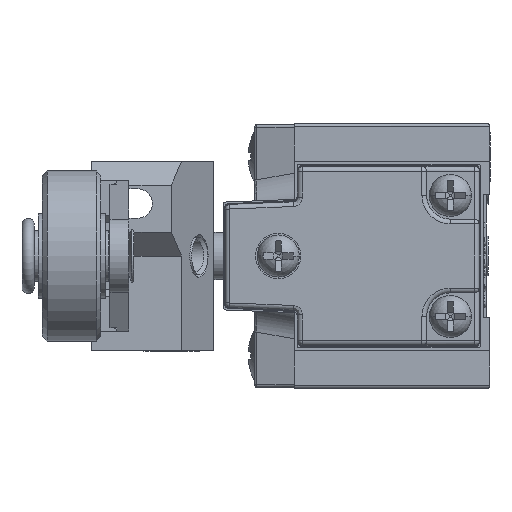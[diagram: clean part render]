
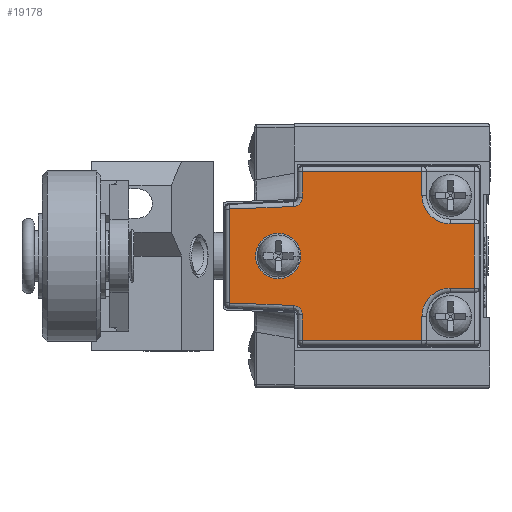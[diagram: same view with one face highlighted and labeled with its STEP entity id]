
A CAD part, left-side view. The second image highlights one B-rep face of the part: STEP entity #19178.
In plain terms, the highlighted planar face has unit normal (-1, 0, 0).
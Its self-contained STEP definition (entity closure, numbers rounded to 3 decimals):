
#4230=DIRECTION('',(0.,0.,1.));
#4231=VECTOR('',#4230,6.8);
#4232=CARTESIAN_POINT('',(-52.85,0.954,-3.4));
#4233=LINE('',#4232,#4231);
#4313=DIRECTION('',(0.,-1.,0.));
#4314=VECTOR('',#4313,12.646);
#4315=CARTESIAN_POINT('',(-52.85,19.146,-8.946));
#4316=LINE('',#4315,#4314);
#4336=DIRECTION('',(0.,0.,-1.));
#4337=VECTOR('',#4336,2.717);
#4338=CARTESIAN_POINT('',(-52.85,19.146,
-6.229));
#4339=LINE('',#4338,#4337);
#4349=CARTESIAN_POINT('',(-52.85,20.107,
-5.23));
#4350=CARTESIAN_POINT('',(-52.85,20.001,
-5.234));
#4351=CARTESIAN_POINT('',(-52.85,19.803,
-5.273));
#4352=CARTESIAN_POINT('',(-52.85,19.529,
-5.422));
#4353=CARTESIAN_POINT('',(-52.85,19.315,
-5.644));
#4354=CARTESIAN_POINT('',(-52.85,19.177,
-5.923));
#4355=CARTESIAN_POINT('',(-52.85,19.147,
-6.123));
#4356=CARTESIAN_POINT('',(-52.85,19.146,
-6.229));
#4468=DIRECTION('',(0.,0.,-1.));
#4469=VECTOR('',#4468,9.934);
#4470=CARTESIAN_POINT('',(-52.85,26.84,4.967));
#4471=LINE('',#4470,#4469);
#4491=CARTESIAN_POINT('',(-52.85,19.146,6.229));
#4492=CARTESIAN_POINT('',(-52.85,19.147,6.123));
#4493=CARTESIAN_POINT('',(-52.85,19.177,5.923));
#4494=CARTESIAN_POINT('',(-52.85,19.315,5.644));
#4495=CARTESIAN_POINT('',(-52.85,19.529,5.422));
#4496=CARTESIAN_POINT('',(-52.85,19.803,5.273));
#4497=CARTESIAN_POINT('',(-52.85,20.001,5.234));
#4498=CARTESIAN_POINT('',(-52.85,20.107,5.23));
#4505=CARTESIAN_POINT('',(-52.85,3.5,6.4));
#4506=DIRECTION('',(-1.,0.,0.));
#4507=DIRECTION('',(0.,1.,0.));
#4508=AXIS2_PLACEMENT_3D('',#4505,#4506,#4507);
#4510=CARTESIAN_POINT('',(-52.85,3.5,-6.4));
#4511=DIRECTION('',(-1.,0.,0.));
#4512=DIRECTION('',(0.,0.,1.));
#4513=AXIS2_PLACEMENT_3D('',#4510,#4511,#4512);
#4515=DIRECTION('',(0.,0.999,0.039));
#4516=VECTOR('',#4515,6.738);
#4517=CARTESIAN_POINT('',(-52.85,20.107,
-5.23));
#4518=LINE('',#4517,#4516);
#4519=DIRECTION('',(0.,-0.999,0.039));
#4520=VECTOR('',#4519,6.738);
#4521=CARTESIAN_POINT('',(-52.85,26.84,4.967));
#4522=LINE('',#4521,#4520);
#4523=CARTESIAN_POINT('',(-52.85,21.7,0.));
#4524=DIRECTION('',(-1.,0.,0.));
#4525=DIRECTION('',(0.,0.,-1.));
#4526=AXIS2_PLACEMENT_3D('',#4523,#4524,#4525);
#4528=CARTESIAN_POINT('',(-52.85,21.7,0.));
#4529=DIRECTION('',(-1.,0.,0.));
#4530=DIRECTION('',(0.,0.,1.));
#4531=AXIS2_PLACEMENT_3D('',#4528,#4529,#4530);
#4533=DIRECTION('',(0.,0.,1.));
#4534=VECTOR('',#4533,2.546);
#4535=CARTESIAN_POINT('',(-52.85,6.5,6.4));
#4536=LINE('',#4535,#4534);
#4564=DIRECTION('',(0.,1.,0.));
#4565=VECTOR('',#4564,12.646);
#4566=CARTESIAN_POINT('',(-52.85,6.5,8.946));
#4567=LINE('',#4566,#4565);
#4587=DIRECTION('',(0.,0.,-1.));
#4588=VECTOR('',#4587,2.717);
#4589=CARTESIAN_POINT('',(-52.85,19.146,8.946));
#4590=LINE('',#4589,#4588);
#4626=DIRECTION('',(0.,1.,0.));
#4627=VECTOR('',#4626,2.546);
#4628=CARTESIAN_POINT('',(-52.85,0.954,3.4));
#4629=LINE('',#4628,#4627);
#5018=DIRECTION('',(0.,-1.,0.));
#5019=VECTOR('',#5018,2.546);
#5020=CARTESIAN_POINT('',(-52.85,3.5,-3.4));
#5021=LINE('',#5020,#5019);
#5078=DIRECTION('',(0.,0.,1.));
#5079=VECTOR('',#5078,2.546);
#5080=CARTESIAN_POINT('',(-52.85,6.5,-8.946));
#5081=LINE('',#5080,#5079);
#10600=CARTESIAN_POINT('',(-52.85,21.7,2.4));
#10601=VERTEX_POINT('',#10600);
#10602=CARTESIAN_POINT('',(-52.85,6.5,6.4));
#10603=CARTESIAN_POINT('',(-52.85,6.5,8.946));
#10604=VERTEX_POINT('',#10602);
#10605=VERTEX_POINT('',#10603);
#10606=CARTESIAN_POINT('',(-52.85,3.5,3.4));
#10607=VERTEX_POINT('',#10606);
#10608=CARTESIAN_POINT('',(-52.85,0.954,3.4));
#10609=VERTEX_POINT('',#10608);
#10610=CARTESIAN_POINT('',(-52.85,0.954,-3.4));
#10611=VERTEX_POINT('',#10610);
#10612=CARTESIAN_POINT('',(-52.85,3.5,-3.4));
#10613=VERTEX_POINT('',#10612);
#10614=CARTESIAN_POINT('',(-52.85,6.5,-6.4));
#10615=VERTEX_POINT('',#10614);
#10616=CARTESIAN_POINT('',(-52.85,6.5,-8.946));
#10617=VERTEX_POINT('',#10616);
#10618=CARTESIAN_POINT('',(-52.85,19.146,-8.946));
#10619=VERTEX_POINT('',#10618);
#10620=CARTESIAN_POINT('',(-52.85,19.146,
-6.229));
#10621=VERTEX_POINT('',#10620);
#10622=VERTEX_POINT('',#4349);
#10623=CARTESIAN_POINT('',(-52.85,26.84,-4.967));
#10624=VERTEX_POINT('',#10623);
#10625=CARTESIAN_POINT('',(-52.85,26.84,4.967));
#10626=VERTEX_POINT('',#10625);
#10627=CARTESIAN_POINT('',(-52.85,20.107,
5.23));
#10628=VERTEX_POINT('',#10627);
#10629=VERTEX_POINT('',#4491);
#10630=CARTESIAN_POINT('',(-52.85,19.146,8.946));
#10631=VERTEX_POINT('',#10630);
#10632=CARTESIAN_POINT('',(-52.85,21.7,-2.4));
#10633=VERTEX_POINT('',#10632);
#19140=CARTESIAN_POINT('',(-52.85,13.897,0.));
#19141=DIRECTION('',(1.,0.,0.));
#19142=DIRECTION('',(0.,0.,1.));
#19143=AXIS2_PLACEMENT_3D('',#19140,#19141,#19142);
#19144=PLANE('',#19143);
#19146=ORIENTED_EDGE('',*,*,#19145,.F.);
#19148=ORIENTED_EDGE('',*,*,#19147,.T.);
#19150=ORIENTED_EDGE('',*,*,#19149,.F.);
#19151=ORIENTED_EDGE('',*,*,#18539,.F.);
#19153=ORIENTED_EDGE('',*,*,#19152,.F.);
#19155=ORIENTED_EDGE('',*,*,#19154,.T.);
#19157=ORIENTED_EDGE('',*,*,#19156,.F.);
#19158=ORIENTED_EDGE('',*,*,#18701,.F.);
#19159=ORIENTED_EDGE('',*,*,#18741,.F.);
#19160=ORIENTED_EDGE('',*,*,#18802,.F.);
#19162=ORIENTED_EDGE('',*,*,#19161,.T.);
#19163=ORIENTED_EDGE('',*,*,#19029,.F.);
#19164=ORIENTED_EDGE('',*,*,#19070,.T.);
#19165=ORIENTED_EDGE('',*,*,#19124,.F.);
#19167=ORIENTED_EDGE('',*,*,#19166,.F.);
#19169=ORIENTED_EDGE('',*,*,#19168,.F.);
#19170=EDGE_LOOP('',(#19146,#19148,#19150,#19151,#19153,#19155,#19157,#19158,
#19159,#19160,#19162,#19163,#19164,#19165,#19167,#19169));
#19171=FACE_OUTER_BOUND('',#19170,.F.);
#19173=ORIENTED_EDGE('',*,*,#19172,.T.);
#19175=ORIENTED_EDGE('',*,*,#19174,.T.);
#19176=EDGE_LOOP('',(#19173,#19175));
#19177=FACE_BOUND('',#19176,.F.);
#19178=ADVANCED_FACE('',(#19171,#19177),#19144,.F.);
#4357=B_SPLINE_CURVE_WITH_KNOTS('',3,(#4349,#4350,#4351,#4352,#4353,#4354,#4355,
#4356),.UNSPECIFIED.,.F.,.F.,(4,1,1,1,1,4),(0.,0.2,0.4,0.6,0.8,1.),
.UNSPECIFIED.);
#4499=B_SPLINE_CURVE_WITH_KNOTS('',3,(#4491,#4492,#4493,#4494,#4495,#4496,#4497,
#4498),.UNSPECIFIED.,.F.,.F.,(4,1,1,1,1,4),(0.,0.2,0.4,0.6,0.8,1.),
.UNSPECIFIED.);
#4509=CIRCLE('',#4508,3.);
#4514=CIRCLE('',#4513,3.);
#4527=CIRCLE('',#4526,2.4);
#4532=CIRCLE('',#4531,2.4);
#18539=EDGE_CURVE('',#10611,#10609,#4233,.T.);
#18701=EDGE_CURVE('',#10619,#10617,#4316,.T.);
#18741=EDGE_CURVE('',#10621,#10619,#4339,.T.);
#18802=EDGE_CURVE('',#10622,#10621,#4357,.T.);
#19029=EDGE_CURVE('',#10626,#10624,#4471,.T.);
#19070=EDGE_CURVE('',#10626,#10628,#4522,.T.);
#19124=EDGE_CURVE('',#10629,#10628,#4499,.T.);
#19145=EDGE_CURVE('',#10604,#10605,#4536,.T.);
#19147=EDGE_CURVE('',#10604,#10607,#4509,.T.);
#19149=EDGE_CURVE('',#10609,#10607,#4629,.T.);
#19152=EDGE_CURVE('',#10613,#10611,#5021,.T.);
#19154=EDGE_CURVE('',#10613,#10615,#4514,.T.);
#19156=EDGE_CURVE('',#10617,#10615,#5081,.T.);
#19161=EDGE_CURVE('',#10622,#10624,#4518,.T.);
#19166=EDGE_CURVE('',#10631,#10629,#4590,.T.);
#19168=EDGE_CURVE('',#10605,#10631,#4567,.T.);
#19172=EDGE_CURVE('',#10633,#10601,#4527,.T.);
#19174=EDGE_CURVE('',#10601,#10633,#4532,.T.);
